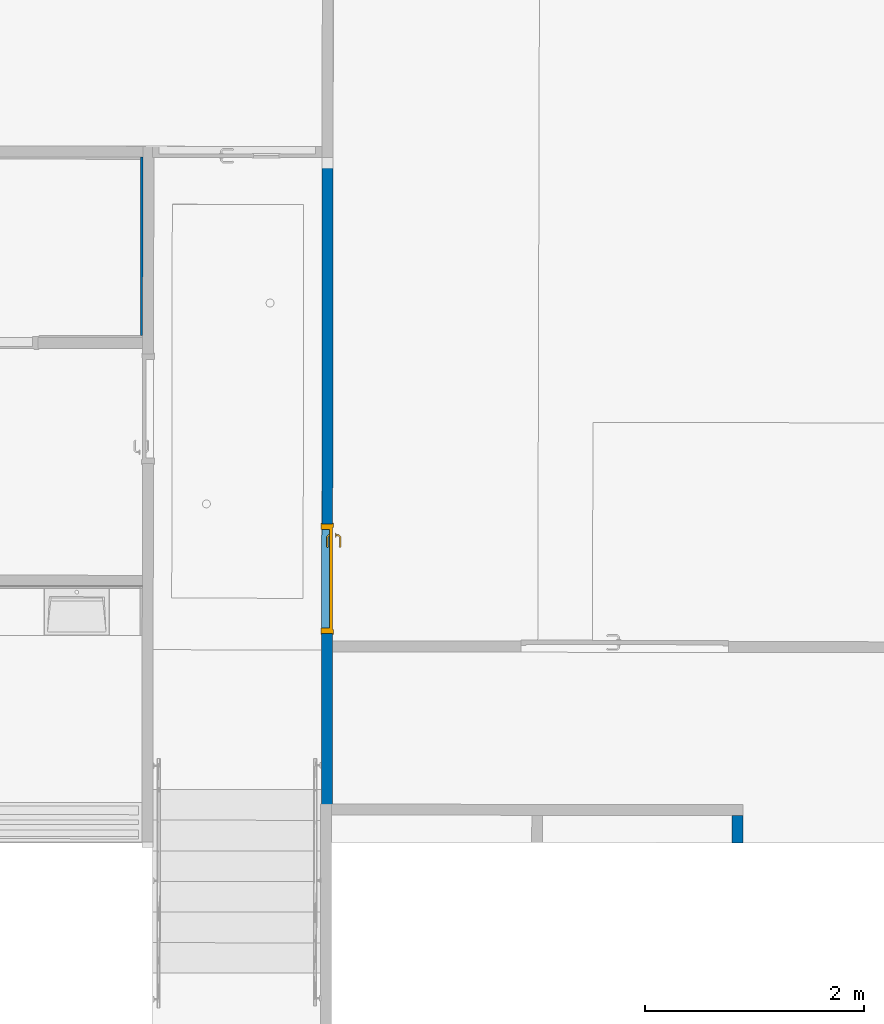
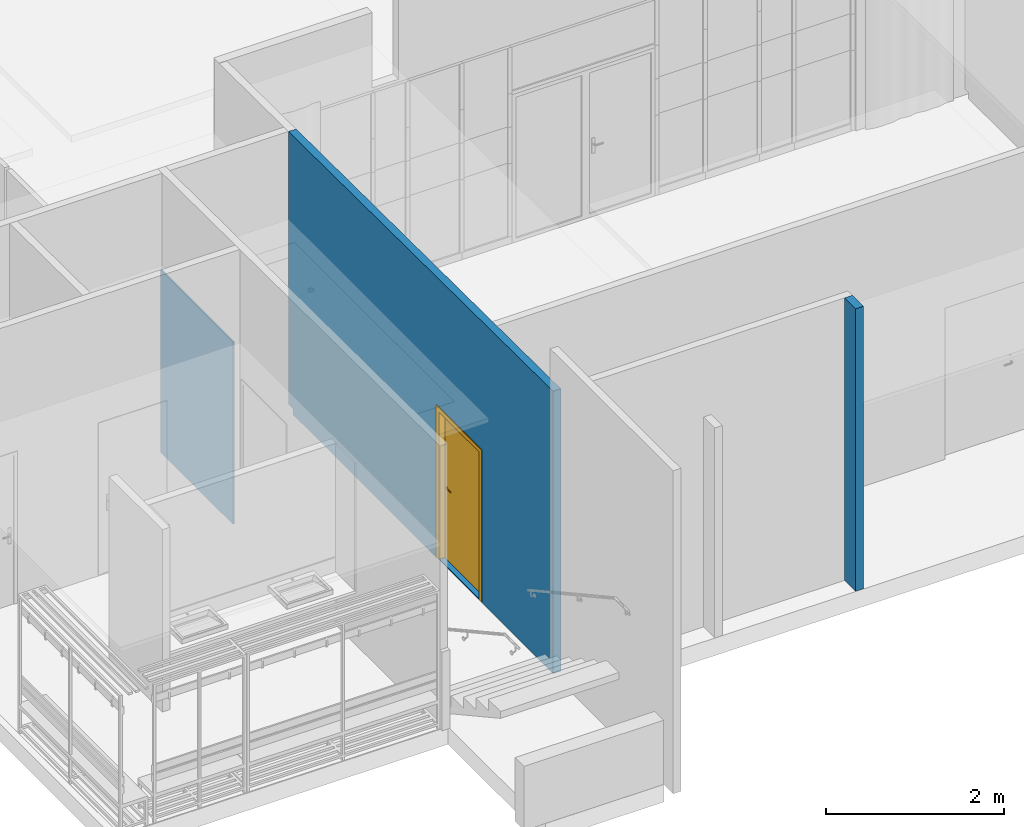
# One storey, part 10 of 43: 3 walls, 1 door, 1 opening.
"""IFC2X3 building model written with IfcOpenShell, lengths in metres."""

import ifcopenshell
import ifcopenshell.guid

model = None  # the IFC model being written
_history = None  # IfcOwnerHistory: only IFC2X3 demands one
_inside = {}  # id of a spatial element -> (the spatial element, [elements in it])
_under = {}  # id of a project, library or spatial element -> (it, [spatial elements below it])
_declared = {}  # id of a project -> (the project, [libraries it declares])
_typed = {}  # id of a type object -> (the type object, [elements of that type])
_made_of = {}  # id of a material, layer set ... -> (it, [elements and type objects made of it])


def new_model(schema):
    """Start an empty IFC model of exactly this schema.

    Asked for "IFC4X3", IfcOpenShell would pick the latest addendum, in which some entities
    have other attributes; the version numbers below select the first issue.
    IFC2X3 requires an IfcOwnerHistory on every rooted entity: one is made here for all.
    """
    global model, _history
    if schema == "IFC4X3":
        model = ifcopenshell.file(schema_version=(4, 3, 0, 0))
    else:
        model = ifcopenshell.file(schema=schema)
    _inside.clear()
    _under.clear()
    _declared.clear()
    _typed.clear()
    _made_of.clear()
    _history = None
    if model.schema == "IFC2X3":
        org = make("IfcOrganization", Name="unknown")
        user = make(
            "IfcPersonAndOrganization",
            ThePerson=make("IfcPerson", FamilyName="unknown"),
            TheOrganization=org,
        )
        app = make(
            "IfcApplication",
            ApplicationDeveloper=org,
            Version="unknown",
            ApplicationFullName="unknown",
            ApplicationIdentifier="unknown",
        )
        _history = make(
            "IfcOwnerHistory",
            OwningUser=user,
            OwningApplication=app,
            ChangeAction="ADDED",
            CreationDate=0,
        )
    return model


def make(cls, **values):
    """One entity of the class cls with the attributes given. An attribute that is None is left unset."""
    return model.create_entity(
        cls, **{name: value for name, value in values.items() if value is not None}
    )


def entity(cls, *values):
    """Any entity or typed value of the class cls, its attributes in the order of the schema. None: left unset."""
    e = model.create_entity(cls)
    for i, value in enumerate(values):
        if value is not None:
            e[i] = value
    return e


def rooted(cls, **values):
    """An entity with a GlobalId (a new one), such as an element, a storey or a relation."""
    return make(cls, GlobalId=ifcopenshell.guid.new(), OwnerHistory=_history, **values)


def si_unit(unit_type, name, prefix=None):
    """IfcSIUnit, for example si_unit("LENGTHUNIT", "METRE", prefix="MILLI")."""
    return make("IfcSIUnit", UnitType=unit_type, Prefix=prefix, Name=name)


def converted_unit(unit_type, name, factor, base, dimensions=None, offset=None):
    """IfcConversionBasedUnit, such as the inch: factor (a typed value) times the base unit."""
    return make(
        "IfcConversionBasedUnit"
        if offset is None
        else "IfcConversionBasedUnitWithOffset",
        ConversionOffset=offset,
        Dimensions=None
        if dimensions is None
        else entity("IfcDimensionalExponents", *dimensions),
        UnitType=unit_type,
        Name=name,
        ConversionFactor=make(
            "IfcMeasureWithUnit", ValueComponent=factor, UnitComponent=base
        ),
    )


def derived_unit(unit_type, elements):
    """IfcDerivedUnit: a product of units, each with its exponent."""
    return make(
        "IfcDerivedUnit",
        Elements=[
            make("IfcDerivedUnitElement", Unit=unit, Exponent=power)
            for unit, power in elements
        ],
        UnitType=unit_type,
    )


def assignment(units):
    """IfcUnitAssignment: the units of a project."""
    return None if units is None else make("IfcUnitAssignment", Units=units)


def point(xyz):
    """IfcCartesianPoint."""
    return None if xyz is None else make("IfcCartesianPoint", Coordinates=xyz)


def direction(xyz):
    """IfcDirection."""
    return None if xyz is None else make("IfcDirection", DirectionRatios=xyz)


def frame(location, z_axis=None, x_axis=None):
    """IfcAxis2Placement3D, a coordinate frame: its origin and axes. An axis left out is left unset."""
    return make(
        "IfcAxis2Placement3D",
        Location=point(location),
        Axis=direction(z_axis),
        RefDirection=direction(x_axis),
    )


def frame_2d(location, x_axis=None):
    """IfcAxis2Placement2D, a coordinate frame in the plane: its origin and x axis."""
    return make(
        "IfcAxis2Placement2D", Location=point(location), RefDirection=direction(x_axis)
    )


def origin():
    """The frame at (0, 0, 0) with its axes left unset."""
    return frame((0.0, 0.0, 0.0))


def place(relative_to, where):
    """IfcLocalPlacement: puts the frame where relative to a parent placement (None: the world)."""
    return make(
        "IfcLocalPlacement", PlacementRelTo=relative_to, RelativePlacement=where
    )


def context(
    kind, dimensions, precision=None, world=None, true_north=None, identifier=None
):
    """IfcGeometricRepresentationContext, for example the 3D "Model" context."""
    return make(
        "IfcGeometricRepresentationContext",
        ContextIdentifier=identifier,
        ContextType=kind,
        CoordinateSpaceDimension=dimensions,
        Precision=precision,
        WorldCoordinateSystem=world,
        TrueNorth=true_north,
    )


def subcontext(parent, identifier, kind, view, scale=None):
    """IfcGeometricRepresentationSubContext, for example "Body" below "Model"."""
    return make(
        "IfcGeometricRepresentationSubContext",
        ContextIdentifier=identifier,
        ContextType=kind,
        ParentContext=parent,
        TargetScale=scale,
        TargetView=view,
    )


def project(units=None, contexts=None):
    """IfcProject with its units and contexts."""
    return rooted(
        "IfcProject",
        Name="project",
        RepresentationContexts=contexts,
        UnitsInContext=assignment(units),
    )


def spatial(cls, under=None, at=None, **own):
    """A site, building, storey or space (cls), placed at a placement, below another one or the project."""
    s = rooted(cls, ObjectPlacement=at, **own)
    if under is not None:
        _under.setdefault(under.id(), (under, []))[1].append(s)
    return s


def polyline(points):
    """IfcPolyline through the points."""
    return make("IfcPolyline", Points=[point(p) for p in points])


def profile(cls, at=None, kind="AREA", **sizes):
    """A parametric profile (cls). Its sizes go by their IFC names, for example OverallWidth=200.0."""
    return make(cls, ProfileType=kind, Position=at, **sizes)


def rectangle(**sizes):
    """IfcRectangleProfileDef."""
    return profile("IfcRectangleProfileDef", **sizes)


def outline(outer, holes=None, kind="AREA"):
    """IfcArbitraryClosedProfileDef: a profile drawn as a closed curve; with holes, ...WithVoids."""
    if holes is None:
        return make("IfcArbitraryClosedProfileDef", ProfileType=kind, OuterCurve=outer)
    return make(
        "IfcArbitraryProfileDefWithVoids",
        ProfileType=kind,
        OuterCurve=outer,
        InnerCurves=holes,
    )


def extrude(swept, where, along, depth):
    """IfcExtrudedAreaSolid: the profile swept, set in the frame where, extruded along a direction by depth."""
    return make(
        "IfcExtrudedAreaSolid",
        SweptArea=swept,
        Position=where,
        ExtrudedDirection=direction(along),
        Depth=depth,
    )


def clip(a, b, op="DIFFERENCE"):
    """IfcBooleanClippingResult: the solid a cut by the half space b."""
    return make(
        "IfcBooleanClippingResult", Operator=op, FirstOperand=a, SecondOperand=b
    )


def bounded_halfspace(plane, agree, where, boundary):
    """IfcPolygonalBoundedHalfSpace: a half space limited to a polygon's prism."""
    return make(
        "IfcPolygonalBoundedHalfSpace",
        BaseSurface=make("IfcPlane", Position=plane),
        AgreementFlag=agree,
        Position=where,
        PolygonalBoundary=boundary,
    )


def faces_of(points, faces, orient=None, outer=None):
    """IfcFace entities. A face is a list of loops; a loop is a list of indices into points, from 0.

    orient and outer hold one flag for each loop. By default every Orientation is true, the
    first loop of a face is its IfcFaceOuterBound and the others are IfcFaceBound.
    """
    made = []
    for i, loops in enumerate(faces):
        bounds = []
        for j, loop in enumerate(loops):
            is_outer = j == 0 if outer is None else outer[i][j]
            bounds.append(
                make(
                    "IfcFaceOuterBound" if is_outer else "IfcFaceBound",
                    Bound=make("IfcPolyLoop", Polygon=[points[k] for k in loop]),
                    Orientation=True if orient is None else orient[i][j],
                )
            )
        made.append(make("IfcFace", Bounds=bounds))
    return made


def faceted_brep(points, faces, orient=None, outer=None, voids=None):
    """IfcFacetedBrep: a solid bounded by flat faces; with voids (closed shells), ...WithVoids."""
    shared = [point(p) for p in points]
    hull = make("IfcClosedShell", CfsFaces=faces_of(shared, faces, orient, outer))
    if voids is None:
        return make("IfcFacetedBrep", Outer=hull)
    return make(
        "IfcFacetedBrepWithVoids",
        Outer=hull,
        Voids=[
            make(cls, CfsFaces=faces_of(shared, fs, o, b)) for cls, fs, o, b in voids
        ],
    )


def shape(context_of_items, identifier, shape_type, items):
    """IfcShapeRepresentation: the items that make up one representation, for example the "Body"."""
    return make(
        "IfcShapeRepresentation",
        ContextOfItems=context_of_items,
        RepresentationIdentifier=identifier,
        RepresentationType=shape_type,
        Items=items,
    )


def source(mapping_origin, context_of_items, identifier, shape_type, items):
    """IfcRepresentationMap: a shape defined once, which mapped items show again and again."""
    return make(
        "IfcRepresentationMap",
        MappingOrigin=mapping_origin,
        MappedRepresentation=shape(context_of_items, identifier, shape_type, items),
    )


def transform(
    local_origin,
    x_axis=None,
    y_axis=None,
    z_axis=None,
    scale=None,
    scale2=None,
    scale3=None,
    uniform=True,
):
    """IfcCartesianTransformationOperator3D, or its non-uniform kind. x_axis, y_axis, z_axis: its Axis1, 2, 3."""
    if uniform:
        return make(
            "IfcCartesianTransformationOperator3D",
            Axis1=direction(x_axis),
            Axis2=direction(y_axis),
            LocalOrigin=point(local_origin),
            Scale=scale,
            Axis3=direction(z_axis),
        )
    return make(
        "IfcCartesianTransformationOperator3DnonUniform",
        Axis1=direction(x_axis),
        Axis2=direction(y_axis),
        LocalOrigin=point(local_origin),
        Scale=scale,
        Axis3=direction(z_axis),
        Scale2=scale2,
        Scale3=scale3,
    )


def mapped(mapping_source, mapping_target):
    """IfcMappedItem: shows the shape of a source again, moved by a transform."""
    return make(
        "IfcMappedItem", MappingSource=mapping_source, MappingTarget=mapping_target
    )


def material(Name=None, Category=None):
    """IfcMaterial."""
    return make("IfcMaterial", Name=Name, Category=Category)


def material_list(materials):
    """IfcMaterialList."""
    return make("IfcMaterialList", Materials=materials)


def layer(
    of_material, thickness, ventilated=None, Name=None, Category=None, Priority=None
):
    """IfcMaterialLayer: one layer of a wall or slab, of a material (None: an air gap)."""
    return make(
        "IfcMaterialLayer",
        Material=of_material,
        LayerThickness=thickness,
        IsVentilated=ventilated,
        Name=Name,
        Category=Category,
        Priority=Priority,
    )


def layer_set(layers, Name=None):
    """IfcMaterialLayerSet."""
    return make("IfcMaterialLayerSet", MaterialLayers=layers, LayerSetName=Name)


def layer_usage(for_layer_set, set_direction, sense, offset, extent=None):
    """IfcMaterialLayerSetUsage: how a layer set lies in its element."""
    return make(
        "IfcMaterialLayerSetUsage",
        ForLayerSet=for_layer_set,
        LayerSetDirection=set_direction,
        DirectionSense=sense,
        OffsetFromReferenceLine=offset,
        ReferenceExtent=extent,
    )


def made_of(thing, what):
    """Note that an element or type object is made of a material, layer set ...; save() writes the relation."""
    if what is not None:
        _made_of.setdefault(what.id(), (what, []))[1].append(thing)
    return thing


def type_object(cls, material=None, **own):
    """A type object (cls), such as IfcWallType, which elements share."""
    return made_of(rooted(cls, **own), material)


def type_shapes(of_type, sources):
    """Give a type object the sources (RepresentationMaps) that its elements show as mapped items."""
    of_type.RepresentationMaps = sources


def element(
    cls,
    number,
    at=None,
    inside=None,
    cuts=None,
    type_object=None,
    material=None,
    context=None,
    identifier="Body",
    shape_type=None,
    held_by="IfcProductDefinitionShape",
    body=None,
    shapes=None,
    **own,
):
    """One element of the class cls, such as IfcWall. Its Tag is "e" and its number.

    at: its placement. inside: the storey or other place that contains it. cuts: it is an
    opening in that element (IfcRelVoidsElement). A single representation is given by context,
    identifier, shape_type and body (its items); several are given by shapes. held_by: the class
    of the entity that holds the representations. save() writes the other relations.
    """
    e = rooted(cls, Tag="e%d" % number, ObjectPlacement=at, **own)
    if body is not None:
        shapes = [shape(context, identifier, shape_type, body)]
    if shapes is not None:
        e.Representation = make(held_by, Representations=shapes)
    if inside is not None:
        _inside.setdefault(inside.id(), (inside, []))[1].append(e)
    if cuts is not None:
        rooted(
            "IfcRelVoidsElement", RelatingBuildingElement=cuts, RelatedOpeningElement=e
        )
    if type_object is not None:
        _typed.setdefault(type_object.id(), (type_object, []))[1].append(e)
    return made_of(e, material)


def fill(opening, filler):
    """IfcRelFillsElement: the door or window that sits in an opening."""
    return rooted(
        "IfcRelFillsElement",
        RelatingOpeningElement=opening,
        RelatedBuildingElement=filler,
    )


def aggregate(whole, parts):
    """IfcRelAggregates: a whole, such as a stair, and the parts it consists of."""
    return rooted("IfcRelAggregates", RelatingObject=whole, RelatedObjects=parts)


def save(model, path):
    """Write the relations noted so far, then the file.

    IfcRelAggregates (storeys below a building ...), IfcRelContainedInSpatialStructure (elements
    in a storey), IfcRelDefinesByType, IfcRelAssociatesMaterial and IfcRelDeclares: one each for
    every whole, place, type object, material and project.
    """
    for whole, parts in _under.values():
        aggregate(whole, parts)
    for where, things in _inside.values():
        rooted(
            "IfcRelContainedInSpatialStructure",
            RelatedElements=things,
            RelatingStructure=where,
        )
    for kind, things in _typed.values():
        rooted("IfcRelDefinesByType", RelatedObjects=things, RelatingType=kind)
    for what, things in _made_of.values():
        rooted("IfcRelAssociatesMaterial", RelatedObjects=things, RelatingMaterial=what)
    for by, libraries in _declared.values():
        rooted("IfcRelDeclares", RelatingContext=by, RelatedDefinitions=libraries)
    model.write(path)


model = new_model("IFC2X3")

# Units and contexts
model_context = context("Model", 3, precision=1e-05, world=origin(), true_north=direction((6.123233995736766e-17, 1.0)))
body_context = subcontext(model_context, "Body", "Model", "MODEL_VIEW")
ifc_project = project(units=[si_unit("LENGTHUNIT", "METRE"), si_unit("AREAUNIT", "SQUARE_METRE"), converted_unit("PLANEANGLEUNIT", "DEGREE", entity("IfcPlaneAngleMeasure", 0.017453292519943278), si_unit("PLANEANGLEUNIT", "RADIAN"), dimensions=[0, 0, 0, 0, 0, 0, 0]), derived_unit("THERMALTRANSMITTANCEUNIT", [(si_unit("MASSUNIT", "GRAM", prefix="KILO"), 1), (si_unit("THERMODYNAMICTEMPERATUREUNIT", "KELVIN"), -1), (si_unit("TIMEUNIT", "SECOND"), -3)])], contexts=[model_context])

# Site, building, storey
site_placement = place(None, frame((1253.6752467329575, 2072.143113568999, 91.49999999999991), z_axis=(0.0, 0.0, 1.0), x_axis=(0.7237211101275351, 0.6900925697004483, 0.0)))
site = spatial("IfcSite", under=ifc_project, at=site_placement, Name="Surface", CompositionType="ELEMENT")
building_placement = place(site_placement, origin())
building = spatial("IfcBuilding", under=site, at=building_placement, CompositionType="ELEMENT")
storey_placement = place(building_placement, frame((0.0, 0.0, -4.629999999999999)))
storey = spatial("IfcBuildingStorey", under=building, at=storey_placement, Name="rez de rue -1.10m", CompositionType="ELEMENT", Elevation=-4.629999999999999)

# Wall
ifc_material_1 = material(Name="OMD_Cloison 100mm CF1h")
ifc_layer_1 = layer(ifc_material_1, 0.1)
ifc_layer_set_1 = layer_set([ifc_layer_1], Name="Mur de base:Cloison 100mm CF1h")
ifc_layer_usage_1 = layer_usage(ifc_layer_set_1, "AXIS2", "NEGATIVE", 0.05)
wall_type_1 = type_object("IfcWallType", Name="Mur de base:Cloison 100mm CF1h", PredefinedType="STANDARD", material=ifc_layer_set_1)
wall_1_placement = place(storey_placement, frame((167.1733238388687, -5.40979199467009, 0.0), z_axis=(0.0, 0.0, 1.0), x_axis=(-0.6919753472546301, -0.721921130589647, 0.0)))
element("IfcWallStandardCase", 1, at=wall_1_placement, inside=storey, type_object=wall_type_1, material=ifc_layer_usage_1, Name="Mur de base:Cloison 100mm CF1h", ObjectType="Mur de base:Cloison 100mm CF1h", context=body_context, shape_type="Clipping", body=[
    clip(extrude(outline(polyline([(0.24919125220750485, -0.04999999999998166), (0.24905399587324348, 0.050000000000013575), (0.0, 0.05000000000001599), (0.00011364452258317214, -0.04999999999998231), (0.24919125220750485, -0.04999999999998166)])), origin(), (0.0, 0.0, 1.0), 3.8773411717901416), bounded_halfspace(frame((0.00011364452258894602, -0.049999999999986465, 3.8751240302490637), z_axis=(-0.008901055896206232, -1.011556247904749e-05, 0.9999603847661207), x_axis=(0.0011364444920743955, -0.9999993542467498, 0.0)), False, frame((0.00011364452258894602, -0.049999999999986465, 3.8751240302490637)), polyline([(0.0, 0.0), (0.24907760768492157, 0.0), (0.2489403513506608, 0.09999999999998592), (-0.00011364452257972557, 0.09999999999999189), (0.0, 0.0)]))),
])

# Wall, opening, door
wall_2_placement = place(storey_placement, frame((164.49649774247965, -2.780727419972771, 0.0), z_axis=(0.0, 0.0, 1.0), x_axis=(0.6909829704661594, 0.722871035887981, 0.0)))
wall_2 = element("IfcWall", 2, at=wall_2_placement, inside=storey, type_object=wall_type_1, Name="Mur de base:Cloison 100mm CF1h", ObjectType="Mur de base:Cloison 100mm CF1h", context=body_context, shape_type="Brep", body=[
    faceted_brep([(0.0, -0.04999999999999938, 3.8744151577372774), (0.0, -0.04999999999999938, 0.0), (5.860062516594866, -0.049999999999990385, 0.0), (5.86006251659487, -0.04999999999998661, 0.08000000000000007), (5.959875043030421, -0.05000000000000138, 0.08000000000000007), (5.95987504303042, -0.05000000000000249, 3.8212308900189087), (1.610565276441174, -0.05000000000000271, 0.01499999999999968), (1.610565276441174, -0.05000000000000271, 2.0899999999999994), (2.610565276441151, -0.049999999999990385, 2.0899999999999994), (2.610565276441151, -0.049999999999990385, 0.01499999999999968), (0.0, 0.0499999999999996, 3.8744151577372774), (5.959822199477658, 0.0500000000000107, 3.82123136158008), (5.959822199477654, 0.050000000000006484, 0.08000000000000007), (5.860062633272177, 0.0500000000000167, 0.08000000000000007), (5.860062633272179, 0.050000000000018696, 0.0), (0.0, 0.0499999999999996, 0.0), (1.6105652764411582, 0.05000000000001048, 0.01499999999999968), (2.6105652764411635, 0.05000000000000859, 0.01499999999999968), (2.6105652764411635, 0.05000000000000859, 2.0899999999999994), (1.6105652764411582, 0.05000000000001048, 2.0899999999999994), (5.860062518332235, -0.0485109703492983, 0.0), (5.959874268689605, -0.048534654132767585, 0.08000000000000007), (5.860062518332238, -0.048510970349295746, 0.08000000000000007)], [[[0, 1, 2, 3, 4, 5], [6, 7, 8, 9]], [[10, 11, 12, 13, 14, 15], [16, 17, 18, 19]], [[2, 1, 15, 14, 20]], [[1, 0, 10, 15]], [[0, 5, 11, 10]], [[7, 6, 16, 19]], [[8, 7, 19, 18]], [[9, 8, 18, 17]], [[6, 9, 17, 16]], [[12, 21, 4, 3, 22, 13]], [[3, 2, 20, 14, 13, 22]], [[4, 21, 12, 11, 5]]]),
])
opening_placement = place(wall_2_placement, frame((2.6105652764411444, 0.0499999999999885, 0.014999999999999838)))
opening = element("IfcOpeningElement", 3, at=opening_placement, cuts=wall_2, Name="Grz_porte 1V recouvrement 30°:93x204:1", ObjectType="Opening", context=body_context, shape_type="SweptSolid", body=[
    extrude(rectangle(XDim=2.0749999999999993, YDim=0.999999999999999, at=frame_2d((1.0374999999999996, 0.4999999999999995), x_axis=(1.0, 0.0))), frame((0.0, 0.0, 0.0), z_axis=(0.0, -1.0, 0.0), x_axis=(0.0, 0.0, 1.0)), (0.0, 0.0, 1.0), 0.1),
])
ifc_material_2 = material(Name="Porte - Poignée")
ifc_material_3 = material(Name="OMD_RAL1032")
ifc_material_list = material_list([ifc_material_2, ifc_material_3])
door_style = type_object("IfcDoorStyle", Name="Grz_porte 1V recouvrement 30°:93x204", ConstructionType="NOTDEFINED", OperationType="SINGLE_SWING_LEFT", ParameterTakesPrecedence=False, Sizeable=False, material=ifc_material_list)
shared_shape = source(origin(), body_context, "Body", "Brep", [
    faceted_brep([(0.897025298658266, 0.009999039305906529, 1.0077804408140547), (0.8929747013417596, 0.009999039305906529, 1.007780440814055), (0.8889999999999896, 0.009999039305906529, 1.0069999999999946), (0.8889999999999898, 0.009999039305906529, 0.9930000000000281), (0.8929747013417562, 0.009999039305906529, 0.992219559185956), (0.8970252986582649, 0.009999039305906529, 0.9922195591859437), (0.9010000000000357, 0.009999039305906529, 0.9929999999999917), (0.9010000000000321, 0.009999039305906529, 1.0069999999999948), (0.8889999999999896, 0.03248424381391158, 1.0069999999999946), (0.8889999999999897, 0.0324842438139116, 0.9930000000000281), (0.8929747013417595, 0.03413061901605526, 1.007780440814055), (0.8970252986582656, 0.035808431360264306, 1.0077804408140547), (0.8808389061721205, 0.05199482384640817, 1.0077804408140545), (0.8791610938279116, 0.04794422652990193, 1.0077804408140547), (0.7957931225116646, 0.047944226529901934, 1.0077804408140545), (0.7941153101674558, 0.051994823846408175, 1.0077804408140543), (0.7864510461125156, 0.04433055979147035, 1.0077804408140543), (0.7893152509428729, 0.0414663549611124, 1.0077804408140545), (0.9010000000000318, 0.03745480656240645, 1.0069999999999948), (0.9010000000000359, 0.037454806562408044, 0.9929999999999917), (0.8970252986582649, 0.03580843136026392, 0.9922195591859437), (0.8929747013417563, 0.03413061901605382, 0.992219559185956), (0.8791610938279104, 0.0479442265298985, 0.9922195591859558), (0.8808389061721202, 0.051994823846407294, 0.9922195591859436), (0.7941153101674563, 0.0519948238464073, 0.9922195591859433), (0.7957931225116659, 0.04794422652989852, 0.9922195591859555), (0.7893152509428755, 0.04146635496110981, 0.9922195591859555), (0.7864510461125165, 0.04433055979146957, 0.9922195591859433), (0.8775147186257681, 0.04396952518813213, 1.0069999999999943), (0.8775147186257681, 0.04396952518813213, 0.993000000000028), (0.8824852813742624, 0.05596952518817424, 1.0069999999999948), (0.8824852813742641, 0.05596952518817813, 0.9929999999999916), (0.837477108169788, 0.04396952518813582, 1.0069999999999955), (0.7974394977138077, 0.04396952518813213, 1.0069999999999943), (0.7974394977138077, 0.043969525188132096, 0.9930000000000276), (0.8374770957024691, 0.04396952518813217, 0.9930000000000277), (0.8374771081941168, 0.05012396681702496, 1.007878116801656), (0.832399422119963, 0.05596952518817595, 1.0069999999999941), (0.7924689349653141, 0.05596952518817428, 1.0069999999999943), (0.8425547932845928, 0.05596952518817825, 0.9929999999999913), (0.7924689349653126, 0.05596952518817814, 0.9929999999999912), (0.8374771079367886, 0.05012396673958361, 0.9921218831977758), (0.7836405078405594, 0.0471410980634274, 1.0069999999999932), (0.7836405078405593, 0.04714109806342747, 0.9929999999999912), (0.7921257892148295, 0.03865581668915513, 0.9930000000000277), (0.7921257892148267, 0.03865581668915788, 1.0069999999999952)], [[[0, 1, 2, 3, 4, 5, 6, 7]], [[8, 9, 3, 2]], [[1, 10, 8, 2]], [[1, 0, 11, 12, 13, 10]], [[14, 15, 16, 17]], [[7, 18, 11, 0]], [[18, 7, 6, 19]], [[6, 5, 20, 19]], [[5, 4, 21, 22, 23, 20]], [[24, 25, 26, 27]], [[4, 3, 9, 21]], [[28, 29, 9, 8]], [[8, 10, 13, 28]], [[18, 30, 12, 11]], [[30, 18, 19, 31]], [[19, 20, 23, 31]], [[21, 9, 29, 22]], [[29, 28, 32, 33, 34, 35]], [[36, 32, 13]], [[37, 38, 15]], [[37, 12, 30]], [[36, 12, 37]], [[14, 32, 36]], [[36, 15, 14]], [[28, 13, 32]], [[32, 14, 33]], [[12, 36, 13]], [[15, 36, 37]], [[30, 31, 39, 40, 38, 37]], [[23, 41, 39]], [[24, 39, 41]], [[39, 31, 23]], [[39, 24, 40]], [[22, 35, 41]], [[41, 23, 22]], [[41, 35, 25]], [[35, 22, 29]], [[34, 25, 35]], [[24, 41, 25]], [[17, 16, 42, 43, 27, 26, 44, 45]], [[45, 44, 34, 33]], [[33, 14, 17, 45]], [[15, 38, 42, 16]], [[43, 42, 38, 40]], [[24, 27, 43, 40]], [[34, 44, 26, 25]]]),
    faceted_brep([(0.89297470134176, -0.030000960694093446, 1.007780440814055), (0.8970252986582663, -0.030000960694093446, 1.0077804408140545), (0.9010000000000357, -0.030000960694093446, 1.0069999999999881), (0.9010000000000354, -0.030000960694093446, 0.9929999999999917), (0.8970252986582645, -0.030000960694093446, 0.9922195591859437), (0.8929747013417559, -0.030000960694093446, 0.992219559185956), (0.8889999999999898, -0.030000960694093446, 0.9930000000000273), (0.8889999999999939, -0.030000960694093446, 1.0069999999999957), (0.8970252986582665, -0.05600553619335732, 1.0077804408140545), (0.9010000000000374, -0.05765191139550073, 1.0069999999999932), (0.8929747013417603, -0.054327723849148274, 1.007780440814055), (0.879298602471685, -0.0680038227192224, 1.0077804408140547), (0.880976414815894, -0.07205442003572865, 1.0077804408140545), (0.7941424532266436, -0.07205442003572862, 1.007780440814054), (0.7958202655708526, -0.06800382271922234, 1.0077804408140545), (0.7893423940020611, -0.061525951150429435, 1.0077804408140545), (0.7864781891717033, -0.06439015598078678, 1.007780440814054), (0.888999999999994, -0.05268134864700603, 1.0069999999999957), (0.8889999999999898, -0.052681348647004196, 0.9930000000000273), (0.8929747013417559, -0.05432772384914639, 0.992219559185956), (0.8970252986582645, -0.05600553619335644, 0.9922195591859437), (0.8809764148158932, -0.07205442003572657, 0.9922195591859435), (0.8792986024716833, -0.06800382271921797, 0.9922195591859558), (0.7958202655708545, -0.06800382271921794, 0.9922195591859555), (0.7941424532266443, -0.07205442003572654, 0.9922195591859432), (0.7864781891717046, -0.06439015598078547, 0.9922195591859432), (0.7893423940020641, -0.06152595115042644, 0.9922195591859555), (0.9010000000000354, -0.05765191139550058, 0.9929999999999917), (0.8826227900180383, -0.07602912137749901, 1.006999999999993), (0.8776522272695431, -0.06402912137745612, 1.0069999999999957), (0.8776522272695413, -0.06402912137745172, 0.9930000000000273), (0.882622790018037, -0.0760291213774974, 0.9929999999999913), (0.8375594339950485, -0.07018376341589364, 1.0078781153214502), (0.8426923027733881, -0.07602912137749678, 1.0069999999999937), (0.7924960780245, -0.07602912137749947, 1.0069999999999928), (0.8375594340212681, -0.06402912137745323, 1.0069999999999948), (0.797466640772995, -0.06402912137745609, 1.0069999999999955), (0.8375594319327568, -0.06402912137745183, 0.9930000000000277), (0.7974666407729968, -0.0640291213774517, 0.993000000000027), (0.837559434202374, -0.07018376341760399, 0.9921218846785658), (0.8324265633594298, -0.07602912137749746, 0.9929999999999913), (0.7924960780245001, -0.07602912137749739, 0.9929999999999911), (0.7921529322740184, -0.058715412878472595, 0.9930000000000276), (0.7836676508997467, -0.06720069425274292, 0.9929999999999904), (0.783667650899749, -0.06720069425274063, 1.0069999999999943), (0.7921529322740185, -0.058715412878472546, 1.0069999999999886)], [[[0, 1, 2, 3, 4, 5, 6, 7]], [[2, 1, 8, 9]], [[1, 0, 10, 11, 12, 8]], [[13, 14, 15, 16]], [[0, 7, 17, 10]], [[17, 7, 6, 18]], [[5, 19, 18, 6]], [[5, 4, 20, 21, 22, 19]], [[23, 24, 25, 26]], [[3, 27, 20, 4]], [[9, 27, 3, 2]], [[9, 8, 12, 28]], [[10, 17, 29, 11]], [[29, 17, 18, 30]], [[18, 19, 22, 30]], [[20, 27, 31, 21]], [[28, 31, 27, 9]], [[12, 32, 33]], [[13, 33, 32]], [[33, 28, 12]], [[33, 13, 34]], [[11, 35, 32]], [[32, 12, 11]], [[32, 35, 14]], [[35, 11, 29]], [[36, 14, 35]], [[13, 32, 14]], [[30, 37, 38, 36, 35, 29]], [[39, 37, 22]], [[40, 41, 24]], [[40, 21, 31]], [[39, 21, 40]], [[23, 37, 39]], [[39, 24, 23]], [[30, 22, 37]], [[37, 23, 38]], [[21, 39, 22]], [[24, 39, 40]], [[31, 28, 33, 34, 41, 40]], [[42, 26, 25, 43, 44, 16, 15, 45]], [[13, 16, 44, 34]], [[36, 45, 15, 14]], [[45, 36, 38, 42]], [[38, 23, 26, 42]], [[24, 41, 43, 25]], [[44, 43, 41, 34]]]),
    faceted_brep([(0.8950000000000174, 0.004999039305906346, 0.8646410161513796), (0.9053527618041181, 0.0049990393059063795, 0.8660039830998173), (0.9150000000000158, 0.004999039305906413, 0.870000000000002), (0.9150000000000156, 0.004999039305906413, 1.0800000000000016), (0.9053527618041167, 0.0049990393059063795, 1.0839960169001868), (0.8950000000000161, 0.004999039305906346, 1.085358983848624), (0.8846472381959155, 0.004999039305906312, 1.0839960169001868), (0.8750000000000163, 0.004999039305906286, 1.0800000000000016), (0.8750000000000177, 0.004999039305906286, 0.8700000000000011), (0.8846472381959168, 0.004999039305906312, 0.8660039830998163), (0.8950000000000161, 0.00999903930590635, 1.085358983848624), (0.9053527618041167, 0.009999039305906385, 1.0839960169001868), (0.9150000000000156, 0.009999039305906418, 1.0800000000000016), (0.9150000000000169, 0.009999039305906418, 0.8700000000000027), (0.9053527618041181, 0.009999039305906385, 0.8660039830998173), (0.8950000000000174, 0.00999903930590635, 0.8646410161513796), (0.8846472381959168, 0.009999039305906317, 0.8660039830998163), (0.8750000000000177, 0.009999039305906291, 0.8700000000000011), (0.8750000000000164, 0.009999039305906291, 1.0800000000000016), (0.8846472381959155, 0.009999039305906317, 1.0839960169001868)], [[[0, 1, 2, 3, 4, 5, 6, 7, 8, 9]], [[10, 11, 12, 13, 14, 15, 16, 17, 18, 19]], [[6, 19, 18, 7]], [[5, 10, 19, 6]], [[4, 11, 10, 5]], [[4, 3, 12, 11]], [[12, 3, 2, 13]], [[1, 14, 13, 2]], [[0, 15, 14, 1]], [[9, 16, 15, 0]], [[9, 8, 17, 16]], [[17, 8, 7, 18]]]),
    faceted_brep([(0.8950000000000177, -0.030000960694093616, 0.8646410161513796), (0.9053527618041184, -0.03000096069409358, 0.8660039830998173), (0.9150000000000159, -0.030000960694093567, 0.8700000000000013), (0.9150000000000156, -0.030000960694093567, 1.0800000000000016), (0.9053527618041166, -0.03000096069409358, 1.0839960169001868), (0.895000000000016, -0.030000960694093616, 1.085358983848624), (0.8846472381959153, -0.03000096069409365, 1.0839960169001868), (0.8750000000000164, -0.030000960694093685, 1.0800000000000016), (0.8750000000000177, -0.030000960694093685, 0.8700000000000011), (0.884647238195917, -0.03000096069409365, 0.8660039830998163), (0.9150000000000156, -0.02500096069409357, 1.0800000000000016), (0.9150000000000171, -0.02500096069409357, 0.8700000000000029), (0.9053527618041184, -0.0250009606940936, 0.8660039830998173), (0.8950000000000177, -0.025000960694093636, 0.8646410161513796), (0.884647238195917, -0.02500096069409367, 0.8660039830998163), (0.8750000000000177, -0.025000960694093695, 0.8700000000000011), (0.8750000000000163, -0.025000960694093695, 1.0800000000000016), (0.8846472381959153, -0.02500096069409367, 1.0839960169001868), (0.895000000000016, -0.025000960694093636, 1.085358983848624), (0.9053527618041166, -0.0250009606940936, 1.0839960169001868)], [[[0, 1, 2, 3, 4, 5, 6, 7, 8, 9]], [[10, 11, 12, 13, 14, 15, 16, 17, 18, 19]], [[1, 12, 11, 2]], [[0, 13, 12, 1]], [[9, 14, 13, 0]], [[9, 8, 15, 14]], [[15, 8, 7, 16]], [[6, 17, 16, 7]], [[5, 18, 17, 6]], [[4, 19, 18, 5]], [[4, 3, 10, 19]], [[10, 3, 2, 11]]]),
    faceted_brep([(1.0, -9.606940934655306e-07, 0.0), (1.0100000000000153, -9.606940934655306e-07, 0.0), (1.0100000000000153, -0.00800096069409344, 0.0), (0.9650000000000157, -0.00800096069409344, 0.0), (0.9650000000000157, 0.029999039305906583, 0.0), (0.9500000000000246, 0.029999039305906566, 0.0), (0.9500000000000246, 0.10799903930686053, 0.0), (1.0100000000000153, 0.10799903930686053, 0.0), (1.0100000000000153, 0.09999903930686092, 0.0), (1.0, 0.09999903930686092, 0.0), (1.0, 0.09999903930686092, 2.0749999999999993), (1.0, -9.606940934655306e-07, 2.0749999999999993), (1.0100000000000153, 0.09999903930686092, 2.084999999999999), (-0.009999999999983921, 0.09999903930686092, 2.084999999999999), (-0.009999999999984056, 0.09999903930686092, 0.0), (0.0, 0.09999903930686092, 0.0), (0.0, 0.09999903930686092, 2.0749999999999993), (1.0100000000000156, 0.10799903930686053, 2.084999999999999), (0.9500000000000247, 0.10799903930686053, 2.0250000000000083), (0.050000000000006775, 0.10799903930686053, 2.0250000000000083), (0.05000000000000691, 0.10799903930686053, 0.0), (-0.009999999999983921, 0.10799903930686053, 0.0), (-0.009999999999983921, 0.10799903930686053, 2.084999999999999), (0.9500000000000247, 0.029999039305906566, 2.0250000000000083), (0.9650000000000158, 0.029999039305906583, 2.0399999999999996), (0.035000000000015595, 0.029999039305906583, 2.0399999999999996), (0.035000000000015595, 0.029999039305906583, 0.0), (0.050000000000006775, 0.029999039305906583, 0.0), (0.050000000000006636, 0.029999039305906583, 2.0250000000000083), (0.9650000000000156, -0.00800096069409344, 2.0399999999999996), (1.0100000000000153, -0.00800096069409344, 2.084999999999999), (-0.009999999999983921, -0.00800096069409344, 2.084999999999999), (-0.009999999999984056, -0.00800096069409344, 0.0), (0.035000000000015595, -0.00800096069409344, 0.0), (0.035000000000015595, -0.00800096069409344, 2.0399999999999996), (1.0100000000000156, -9.606940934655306e-07, 2.084999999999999), (0.0, -9.606940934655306e-07, 2.0749999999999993), (0.0, -9.606940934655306e-07, 0.0), (-0.009999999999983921, -9.606940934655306e-07, 0.0), (-0.009999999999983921, -9.606940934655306e-07, 2.084999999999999)], [[[0, 1, 2, 3, 4, 5, 6, 7, 8, 9]], [[9, 10, 11, 0]], [[8, 12, 13, 14, 15, 16, 10, 9]], [[7, 17, 12, 8]], [[6, 18, 19, 20, 21, 22, 17, 7]], [[5, 23, 18, 6]], [[4, 24, 25, 26, 27, 28, 23, 5]], [[3, 29, 24, 4]], [[2, 30, 31, 32, 33, 34, 29, 3]], [[1, 35, 30, 2]], [[0, 11, 36, 37, 38, 39, 35, 1]], [[16, 15, 37, 36]], [[37, 15, 14, 21, 20, 27, 26, 33, 32, 38]], [[22, 21, 14, 13]], [[28, 27, 20, 19]], [[34, 33, 26, 25]], [[39, 38, 32, 31]], [[10, 16, 36, 11]], [[17, 22, 13, 12]], [[23, 28, 19, 18]], [[29, 34, 25, 24]], [[35, 39, 31, 30]]]),
    faceted_brep([(0.9650000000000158, -9.606940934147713e-07, 2.0399999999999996), (0.035000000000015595, -9.606940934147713e-07, 2.0399999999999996), (0.03500000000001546, -9.606940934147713e-07, 0.0), (0.9650000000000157, -9.606940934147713e-07, 0.0), (0.9650000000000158, 0.029999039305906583, 2.0399999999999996), (0.9650000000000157, 0.029999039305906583, 0.0), (0.03500000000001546, 0.029999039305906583, 0.0), (0.035000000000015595, 0.029999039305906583, 2.0399999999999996)], [[[0, 1, 2, 3]], [[4, 5, 6, 7]], [[3, 5, 4, 0]], [[2, 6, 5, 3]], [[1, 7, 6, 2]], [[0, 4, 7, 1]]]),
])
type_shapes(door_style, [shared_shape])
door_placement = place(opening_placement, frame((-1.0, -0.09999903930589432, 0.0)))
door = element("IfcDoor", 4, at=door_placement, inside=storey, type_object=door_style, material=ifc_material_list, Name="Grz_porte 1V recouvrement 30°:93x204", ObjectType="Grz_porte 1V recouvrement 30°:93x204", OverallHeight=2.0749999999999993, OverallWidth=0.9999999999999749, context=body_context, shape_type="MappedRepresentation", body=[
    mapped(shared_shape, transform((0.0, 0.0, 0.0), scale=1.0)),
])
fill(opening, door)

# Wall
ifc_material_4 = material(Name="OMD faience douche 60*120")
ifc_layer_2 = layer(ifc_material_4, 0.02)
ifc_layer_set_2 = layer_set([ifc_layer_2], Name="Mur de base:faïence douches")
ifc_layer_usage_2 = layer_usage(ifc_layer_set_2, "AXIS2", "NEGATIVE", 0.010000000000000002)
wall_type_2 = type_object("IfcWallType", Name="Mur de base:faïence douches", PredefinedType="STANDARD", material=ifc_layer_set_2)
wall_3_placement = place(storey_placement, frame((166.26003428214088, 1.5229069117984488, 0.0), z_axis=(0.0, 0.0, 1.0), x_axis=(0.6911544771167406, 0.7227070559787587, 0.0)))
element("IfcWallStandardCase", 5, at=wall_3_placement, inside=storey, type_object=wall_type_2, material=ifc_layer_usage_2, Name="Mur de base:faïence douches", ObjectType="Mur de base:faïence douches", context=body_context, shape_type="SweptSolid", body=[
    extrude(rectangle(XDim=1.6305206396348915, YDim=0.01999999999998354, at=frame_2d((0.8152603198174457, 1.618497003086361e-15), x_axis=(-1.0, 0.0))), origin(), (0.0, 0.0, 1.0), 2.499999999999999),
])

save(model, "model.ifc")
